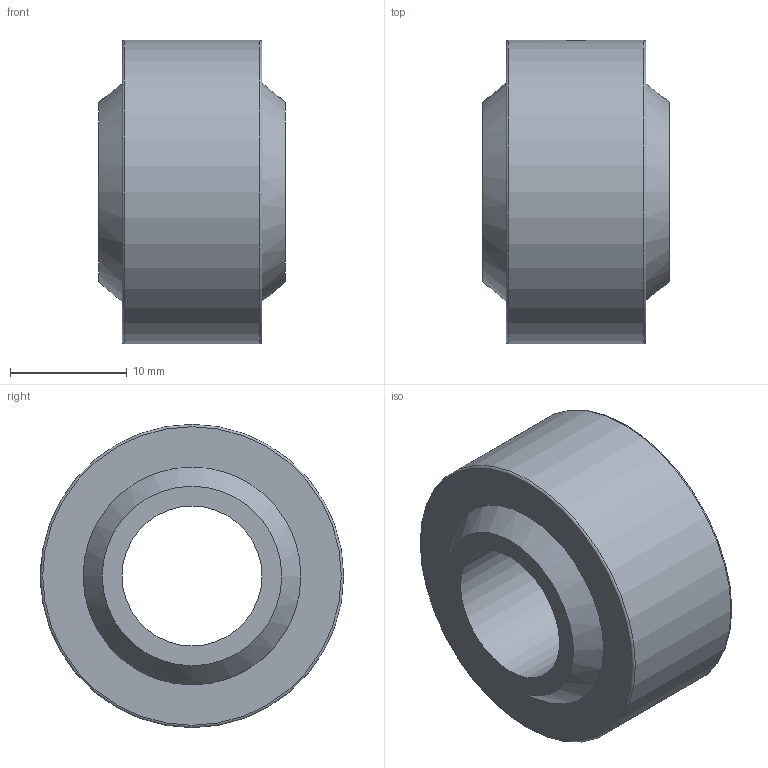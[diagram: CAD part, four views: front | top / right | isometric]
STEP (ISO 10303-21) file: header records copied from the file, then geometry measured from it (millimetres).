
FILE_DESCRIPTION( ( 'STEP AP203' ), '1' );
FILE_NAME( 'C:/Temp/Ganter_Step_05_03_2020/data/3_6/gn_648_8/gn_648_8_n/Ball joint GN 648.8-12-26-N.stp', '2020-03-12T14:14:24', ( 'License CC BY-ND 4.0' ), ( 'CADENAS' ), ' ', 'PARTsolutions', ' ' );
FILE_SCHEMA( ( 'CONFIG_CONTROL_DESIGN' ) );
Length unit declared in the file: millimetre
Products named in the file (3): Ball joint GN 648.8-12-26-N; _Ball joint GN 648.8-12-26-N-2; _Ball joint GN 648.8-12-26-N-1
Assembly tree (2 placements, depth 2):
  Ball joint GN 648.8-12-26-N
    _Ball joint GN 648.8-12-26-N-2
    _Ball joint GN 648.8-12-26-N-1
Bounding box: 16 x 26 x 26 mm (x, y, z)
Volume: 5483.1 mm3; surface area: 4187.7 mm2
Topology: 2 solids, 2 shells, 11 faces, 20 edges, 13 vertices
Faces by surface type: plane 4, cylinder 3, sphere 2, torus 2
Full cylindrical faces by diameter (mm): 1.9 x1, 12 x1, 26 x1
Entity records: 382 total; most frequent: CARTESIAN_POINT 69, DIRECTION 50, AXIS2_PLACEMENT_3D 25, EDGE_LOOP 24, ORIENTED_EDGE 24, FACE_OUTER_BOUND 18, CC_DESIGN_PERSON_AND_ORGANIZATION_ASSIGNMENT 13, EDGE_CURVE 12
